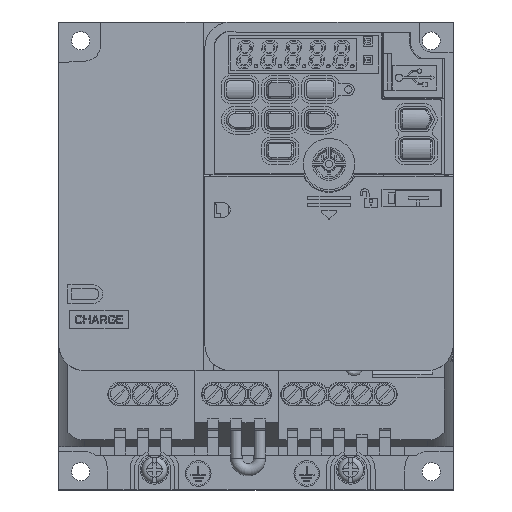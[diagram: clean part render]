
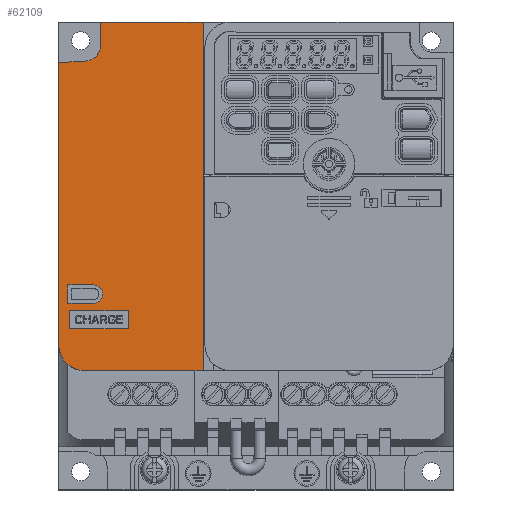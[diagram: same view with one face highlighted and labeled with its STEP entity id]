
A CAD part, top view. The second image highlights one B-rep face of the part: STEP entity #62109.
In plain terms, the highlighted planar face has unit normal (0, 0, 1).
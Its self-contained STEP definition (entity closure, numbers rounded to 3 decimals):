
#14691=CARTESIAN_POINT('',(-47.,39.6,137.5));
#14692=DIRECTION('',(0.,0.,1.));
#14693=DIRECTION('',(-1.,0.,0.));
#14694=AXIS2_PLACEMENT_3D('',#14691,#14692,#14693);
#14696=DIRECTION('',(0.,-1.,0.));
#14697=VECTOR('',#14696,77.297);
#14698=CARTESIAN_POINT('',(-54.,116.897,137.5));
#14699=LINE('',#14698,#14697);
#14700=DIRECTION('',(0.999,0.052,0.));
#14701=VECTOR('',#14700,7.245);
#14702=CARTESIAN_POINT('',(-54.,116.897,137.5));
#14703=LINE('',#14702,#14701);
#14704=DIRECTION('',(0.,-1.,0.));
#14705=VECTOR('',#14704,6.23);
#14706=CARTESIAN_POINT('',(-42.5,128.,137.5));
#14707=LINE('',#14706,#14705);
#14708=DIRECTION('',(-1.,0.,0.));
#14709=VECTOR('',#14708,28.);
#14710=CARTESIAN_POINT('',(-14.5,128.,137.5));
#14711=LINE('',#14710,#14709);
#14712=DIRECTION('',(0.,1.,0.));
#14713=VECTOR('',#14712,95.4);
#14714=CARTESIAN_POINT('',(-14.5,32.6,137.5));
#14715=LINE('',#14714,#14713);
#14716=DIRECTION('',(1.,0.,0.));
#14717=VECTOR('',#14716,32.5);
#14718=CARTESIAN_POINT('',(-47.,32.6,137.5));
#14719=LINE('',#14718,#14717);
#14720=DIRECTION('',(-1.,0.,0.));
#14721=VECTOR('',#14720,7.);
#14722=CARTESIAN_POINT('',(-44.5,51.,137.5));
#14723=LINE('',#14722,#14721);
#14724=CARTESIAN_POINT('',(-44.5,53.5,137.5));
#14725=DIRECTION('',(0.,0.,-1.));
#14726=DIRECTION('',(0.,1.,0.));
#14727=AXIS2_PLACEMENT_3D('',#14724,#14725,#14726);
#14729=DIRECTION('',(1.,0.,0.));
#14730=VECTOR('',#14729,7.);
#14731=CARTESIAN_POINT('',(-51.5,56.,137.5));
#14732=LINE('',#14731,#14730);
#14733=DIRECTION('',(0.,1.,0.));
#14734=VECTOR('',#14733,5.);
#14735=CARTESIAN_POINT('',(-51.5,51.,137.5));
#14736=LINE('',#14735,#14734);
#14737=DIRECTION('',(0.,-1.,0.));
#14738=VECTOR('',#14737,5.);
#14739=CARTESIAN_POINT('',(-51.,49.,137.5));
#14740=LINE('',#14739,#14738);
#14741=DIRECTION('',(1.,0.,0.));
#14742=VECTOR('',#14741,16.);
#14743=CARTESIAN_POINT('',(-51.,44.,137.5));
#14744=LINE('',#14743,#14742);
#14745=DIRECTION('',(0.,1.,0.));
#14746=VECTOR('',#14745,5.);
#14747=CARTESIAN_POINT('',(-35.,44.,137.5));
#14748=LINE('',#14747,#14746);
#14749=DIRECTION('',(-1.,0.,0.));
#14750=VECTOR('',#14749,16.);
#14751=CARTESIAN_POINT('',(-35.,49.,137.5));
#14752=LINE('',#14751,#14750);
#14762=CARTESIAN_POINT('',(-47.,121.77,137.5));
#14763=DIRECTION('',(0.,0.,-1.));
#14764=DIRECTION('',(1.,0.,0.));
#14765=AXIS2_PLACEMENT_3D('',#14762,#14763,#14764);
#31512=CARTESIAN_POINT('',(-14.5,32.6,137.5));
#31513=CARTESIAN_POINT('',(-14.5,128.,137.5));
#31514=VERTEX_POINT('',#31512);
#31515=VERTEX_POINT('',#31513);
#32052=CARTESIAN_POINT('',(-42.5,128.,137.5));
#32053=VERTEX_POINT('',#32052);
#32932=CARTESIAN_POINT('',(-51.,49.,137.5));
#32933=CARTESIAN_POINT('',(-51.,44.,137.5));
#32934=VERTEX_POINT('',#32932);
#32935=VERTEX_POINT('',#32933);
#32936=CARTESIAN_POINT('',(-35.,44.,137.5));
#32937=VERTEX_POINT('',#32936);
#32938=CARTESIAN_POINT('',(-35.,49.,137.5));
#32939=VERTEX_POINT('',#32938);
#33386=CARTESIAN_POINT('',(-54.,116.897,137.5));
#33388=VERTEX_POINT('',#33386);
#33390=CARTESIAN_POINT('',(-46.764,117.277,137.5));
#33392=VERTEX_POINT('',#33390);
#33394=CARTESIAN_POINT('',(-42.5,121.77,137.5));
#33396=VERTEX_POINT('',#33394);
#33580=CARTESIAN_POINT('',(-44.5,51.,137.5));
#33581=CARTESIAN_POINT('',(-51.5,51.,137.5));
#33582=VERTEX_POINT('',#33580);
#33583=VERTEX_POINT('',#33581);
#33584=CARTESIAN_POINT('',(-51.5,56.,137.5));
#33585=VERTEX_POINT('',#33584);
#33586=CARTESIAN_POINT('',(-44.5,56.,137.5));
#33587=VERTEX_POINT('',#33586);
#36628=CARTESIAN_POINT('',(-54.,39.6,137.5));
#36630=VERTEX_POINT('',#36628);
#36632=CARTESIAN_POINT('',(-47.,32.6,137.5));
#36633=VERTEX_POINT('',#36632);
#62071=CARTESIAN_POINT('',(0.,0.,137.5));
#62072=DIRECTION('',(0.,0.,1.));
#62073=DIRECTION('',(1.,0.,0.));
#62074=AXIS2_PLACEMENT_3D('',#62071,#62072,#62073);
#62075=PLANE('',#62074);
#62076=ORIENTED_EDGE('',*,*,#38416,.F.);
#62077=ORIENTED_EDGE('',*,*,#38461,.F.);
#62079=ORIENTED_EDGE('',*,*,#62078,.T.);
#62081=ORIENTED_EDGE('',*,*,#62080,.F.);
#62083=ORIENTED_EDGE('',*,*,#62082,.F.);
#62084=ORIENTED_EDGE('',*,*,#61620,.F.);
#62085=ORIENTED_EDGE('',*,*,#62057,.F.);
#62086=ORIENTED_EDGE('',*,*,#38246,.F.);
#62087=EDGE_LOOP('',(#62076,#62077,#62079,#62081,#62083,#62084,#62085,#62086));
#62088=FACE_OUTER_BOUND('',#62087,.F.);
#62090=ORIENTED_EDGE('',*,*,#62089,.F.);
#62092=ORIENTED_EDGE('',*,*,#62091,.F.);
#62094=ORIENTED_EDGE('',*,*,#62093,.F.);
#62096=ORIENTED_EDGE('',*,*,#62095,.F.);
#62097=EDGE_LOOP('',(#62090,#62092,#62094,#62096));
#62098=FACE_BOUND('',#62097,.F.);
#62100=ORIENTED_EDGE('',*,*,#62099,.T.);
#62102=ORIENTED_EDGE('',*,*,#62101,.T.);
#62104=ORIENTED_EDGE('',*,*,#62103,.T.);
#62106=ORIENTED_EDGE('',*,*,#62105,.T.);
#62107=EDGE_LOOP('',(#62100,#62102,#62104,#62106));
#62108=FACE_BOUND('',#62107,.F.);
#14695=CIRCLE('',#14694,7.);
#14728=CIRCLE('',#14727,2.5);
#14766=CIRCLE('',#14765,4.5);
#38246=EDGE_CURVE('',#36633,#31514,#14719,.T.);
#38416=EDGE_CURVE('',#36630,#36633,#14695,.T.);
#38461=EDGE_CURVE('',#33388,#36630,#14699,.T.);
#61620=EDGE_CURVE('',#31515,#32053,#14711,.T.);
#62057=EDGE_CURVE('',#31514,#31515,#14715,.T.);
#62078=EDGE_CURVE('',#33388,#33392,#14703,.T.);
#62080=EDGE_CURVE('',#33396,#33392,#14766,.T.);
#62082=EDGE_CURVE('',#32053,#33396,#14707,.T.);
#62089=EDGE_CURVE('',#33582,#33583,#14723,.T.);
#62091=EDGE_CURVE('',#33587,#33582,#14728,.T.);
#62093=EDGE_CURVE('',#33585,#33587,#14732,.T.);
#62095=EDGE_CURVE('',#33583,#33585,#14736,.T.);
#62099=EDGE_CURVE('',#32934,#32935,#14740,.T.);
#62101=EDGE_CURVE('',#32935,#32937,#14744,.T.);
#62103=EDGE_CURVE('',#32937,#32939,#14748,.T.);
#62105=EDGE_CURVE('',#32939,#32934,#14752,.T.);
#62109=ADVANCED_FACE('',(#62088,#62098,#62108),#62075,.T.);
